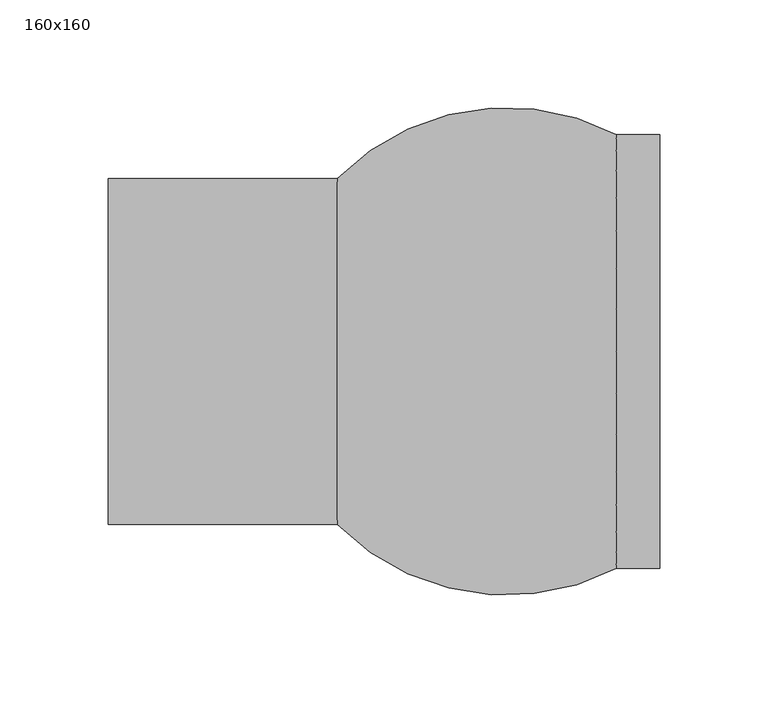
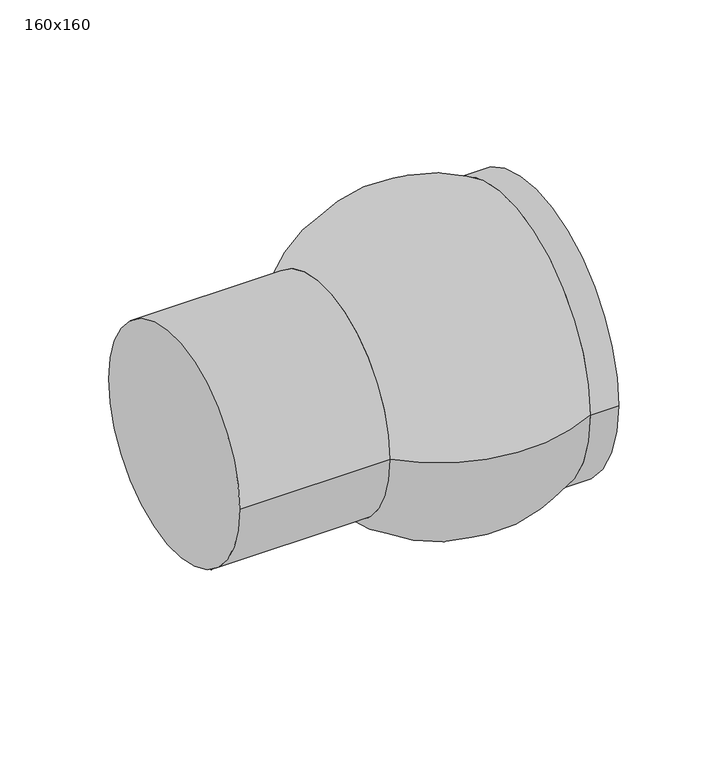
"""IFC4 building model written with IfcOpenShell, lengths in millimetres: pipe fitting geometry, Pipelife - Studnia PRO - Łącznik 15° : 160x160."""

from ifc_helpers import new_model, si_unit, point, frame, origin, origin_2d, place, context, project, spatial, circle_curve, ellipse_curve, trimmed, segment, composite_curve, outline, extrude, source, transform, mapped, element, save
from ifc_brep_helpers import plane_surface, revolved_surface, advanced_brep


def pipe_fitting_160x160_2ca06f0c(model_context):
    return source(origin(), model_context, "Body", "SolidModel", [
        extrude(outline(composite_curve([segment(trimmed(circle_curve(origin_2d(), 80.5), [point((0.0, -80.5))], [point((0.0, 80.5))], False, "CARTESIAN"), True, "CONTINUOUS"), segment(trimmed(circle_curve(origin_2d(), 80.5), [point((0.0, 80.5))], [point((0.0, -80.5))], False, "CARTESIAN"), True, "CONTINUOUS")], self_intersect=False)), frame((117.538053, 0.0, 0.0), z_axis=(1.0, 0.0, 0.0), x_axis=(0.0, 1.0, 0.0)), (0.0, 0.0, 1.0), 10.0),
        advanced_brep(
        [(107.5, -100.25, 0.0), (107.5, 100.25, 0.0), (107.5, 0.0, 0.0), (-21.5, -80.0, 0.0), (-21.5, 80.0, 0.0), (-21.5, 0.0, 0.0)],
        [
            (0, 1, circle_curve(frame((107.5, 0.0, 0.0), z_axis=(1.0, 0.0, 0.0), x_axis=(0.0, 1.0, 0.0)), 100.25)),
            (1, 2),
            (2, 0),
            (1, 0, circle_curve(frame((107.5, 0.0, 0.0), z_axis=(1.0, 0.0, 0.0), x_axis=(0.0, 1.0, 0.0)), 100.25)),
            (3, 4, circle_curve(frame((-21.5, 0.0, 0.0), z_axis=(1.0, 0.0, 0.0), x_axis=(0.0, 1.0, 0.0)), 80.0)),
            (4, 1, circle_curve(frame((56.6316251, 3.2864993, 0.0), z_axis=(0.0, 0.0, -1.0), x_axis=(1.0, 0.0, 0.0)), 109.4966302)),
            (0, 3, circle_curve(frame((56.6316251, -3.2864993, 0.0), z_axis=(0.0, 0.0, -1.0), x_axis=(1.0, 0.0, 0.0)), 109.4966302)),
            (4, 3, circle_curve(frame((-21.5, 0.0, 0.0), z_axis=(1.0, 0.0, 0.0), x_axis=(0.0, 1.0, 0.0)), 80.0)),
            (5, 4),
            (3, 5),
        ],
        [
            plane_surface(frame((107.5, 0.0, 0.0), z_axis=(1.0, 0.0, 0.0), x_axis=(0.0, 1.0, 0.0))),
            revolved_surface(trimmed(ellipse_curve(frame((56.6316251, 3.2864993, 0.0), z_axis=(0.0, 0.0, 1.0), x_axis=(1.0, 0.0, 0.0)), 109.4966302, 109.4966302), [point((107.5, 100.25, 0.0))], [point((-21.5, 80.0, 0.0))], True, "CARTESIAN"), (43.0, 0.0, 0.0), (-1.0, 0.0, 0.0)),
            plane_surface(frame((-21.5, 0.0, 0.0), z_axis=(-1.0, 0.0, 0.0), x_axis=(0.0, 1.0, 0.0))),
        ],
        [
            (0, [[1, 2, 3]]),
            (0, [[4, -3, -2]]),
            (1, [[5, 6, -1, 7]]),
            (1, [[8, -7, -4, -6]]),
            (2, [[9, -5, 10]]),
            (2, [[-10, -8, -9]]),
        ],
    ),
        extrude(outline(composite_curve([segment(trimmed(circle_curve(origin_2d(), 100.25), [point((-100.25, 0.0))], [point((100.25, 0.0))], False, "CARTESIAN"), True, "CONTINUOUS"), segment(trimmed(circle_curve(origin_2d(), 100.25), [point((100.25, 0.0))], [point((-100.25, 0.0))], False, "CARTESIAN"), True, "CONTINUOUS")], self_intersect=False)), frame((107.5, 0.0, 0.0), z_axis=(1.0, 0.0, 0.0), x_axis=(0.0, 1.0, 0.0)), (0.0, 0.0, 1.0), 20.0),
        extrude(outline(composite_curve([segment(trimmed(circle_curve(origin_2d(), 80.0), [point((-80.0, 0.0))], [point((80.0, 0.0))], False, "CARTESIAN"), True, "CONTINUOUS"), segment(trimmed(circle_curve(origin_2d(), 80.0), [point((80.0, 0.0))], [point((-80.0, 0.0))], False, "CARTESIAN"), True, "CONTINUOUS")], self_intersect=False)), frame((-127.5, 0.0, 0.0), z_axis=(1.0, 0.0, 0.0), x_axis=(0.0, 1.0, 0.0)), (0.0, 0.0, 1.0), 106.0),
    ])


if __name__ == "__main__":
    model = new_model("IFC4")
    model_context = context("Model", 3, world=origin())
    ifc_project = project(units=[si_unit("LENGTHUNIT", "METRE", prefix="MILLI")], contexts=[model_context])
    site = spatial("IfcSite", under=ifc_project)
    building = spatial("IfcBuilding", under=site)
    placement = place(None, origin())
    pipe_fitting_160x160_shape = pipe_fitting_160x160_2ca06f0c(model_context)
    element("IfcPipeFitting", 1, ObjectType="Pipelife - Studnia PRO - Łącznik 15° : 160x160", at=placement, inside=building, context=model_context, shape_type="MappedRepresentation", body=[
        mapped(pipe_fitting_160x160_shape, transform((0.0, 0.0, 0.0), x_axis=(1.0, 0.0, 0.0), y_axis=(0.0, 1.0, 0.0), z_axis=(0.0, 0.0, 1.0))),
    ])
    save(model, "model.ifc")
